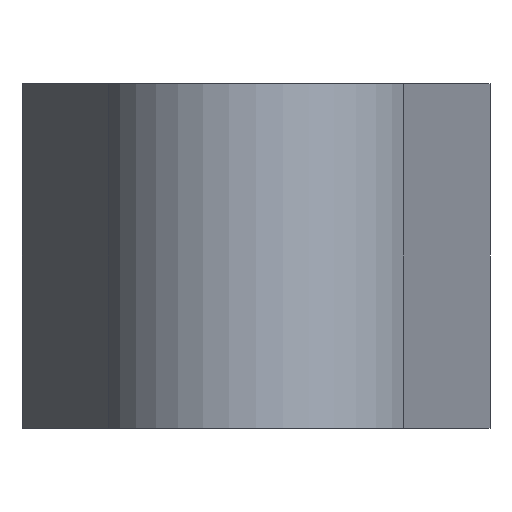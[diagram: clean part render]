
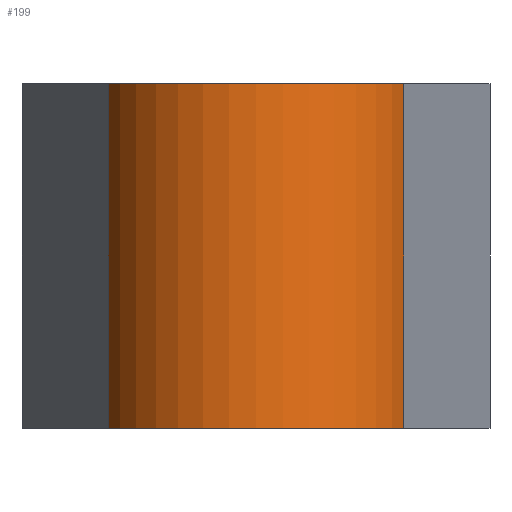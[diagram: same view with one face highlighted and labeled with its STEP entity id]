
A CAD part, left-side view. The second image highlights one B-rep face of the part: STEP entity #199.
In plain terms, the highlighted cylindrical face has radius 11.5 mm (diameter 23 mm), a partial arc.
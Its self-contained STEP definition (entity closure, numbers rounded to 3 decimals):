
#123=CYLINDRICAL_SURFACE('',#741,11.5);
#148=CIRCLE('',#739,11.5);
#149=CIRCLE('',#740,11.5);
#199=ADVANCED_FACE('',(#250),#123,.T.);
#250=FACE_OUTER_BOUND('',#280,.T.);
#280=EDGE_LOOP('',(#353,#354,#355,#356));
#353=ORIENTED_EDGE('',*,*,#578,.F.);
#354=ORIENTED_EDGE('',*,*,#581,.T.);
#355=ORIENTED_EDGE('',*,*,#561,.T.);
#356=ORIENTED_EDGE('',*,*,#582,.F.);
#503=VERTEX_POINT('',#1033);
#504=VERTEX_POINT('',#1035);
#515=VERTEX_POINT('',#1069);
#516=VERTEX_POINT('',#1070);
#561=EDGE_CURVE('',#504,#503,#649,.T.);
#578=EDGE_CURVE('',#515,#516,#662,.T.);
#581=EDGE_CURVE('',#515,#504,#148,.T.);
#582=EDGE_CURVE('',#516,#503,#149,.T.);
#649=LINE('',#1034,#689);
#662=LINE('',#1068,#702);
#689=VECTOR('',#818,1.);
#702=VECTOR('',#851,1.);
#739=AXIS2_PLACEMENT_3D('',#1074,#856,#857);
#740=AXIS2_PLACEMENT_3D('',#1075,#858,#859);
#741=AXIS2_PLACEMENT_3D('',#1076,#860,#861);
#818=DIRECTION('',(0.,0.,1.));
#851=DIRECTION('',(0.,0.,1.));
#856=DIRECTION('',(0.,0.,1.));
#857=DIRECTION('',(1.,0.,0.));
#858=DIRECTION('',(0.,0.,1.));
#859=DIRECTION('',(1.,0.,0.));
#860=DIRECTION('',(0.,0.,1.));
#861=DIRECTION('',(-1.,0.,0.));
#1033=CARTESIAN_POINT('',(-4.165,-10.719,25.));
#1034=CARTESIAN_POINT('',(-4.165,-10.719,0.));
#1035=CARTESIAN_POINT('',(-4.165,-10.719,0.));
#1068=CARTESIAN_POINT('',(-4.165,10.719,0.));
#1069=CARTESIAN_POINT('',(-4.165,10.719,0.));
#1070=CARTESIAN_POINT('',(-4.165,10.719,25.));
#1074=CARTESIAN_POINT('',(0.,0.,0.));
#1075=CARTESIAN_POINT('',(0.,0.,25.));
#1076=CARTESIAN_POINT('',(0.,0.,0.));
